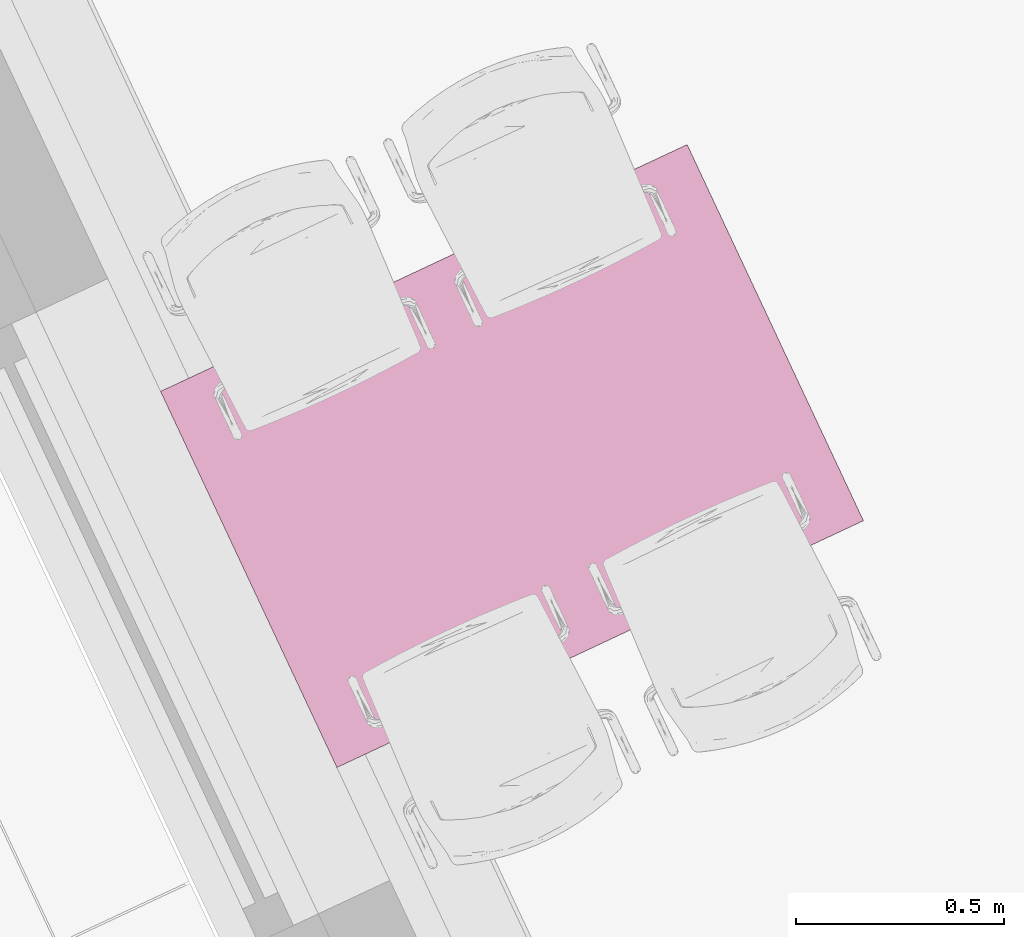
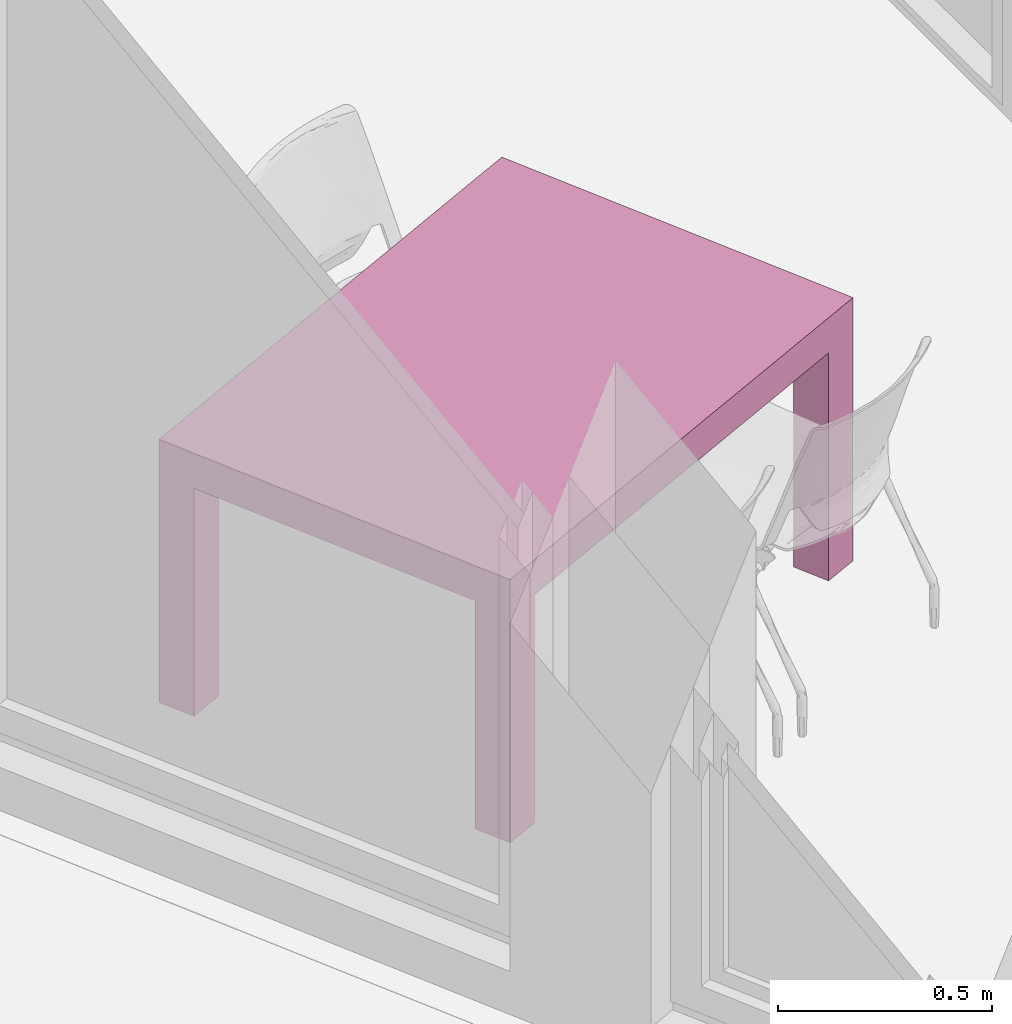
# One storey, part 63 of 125: 1 furnishing.
"""IFC2X3 building model written with IfcOpenShell, lengths in millimetres."""

import ifcopenshell
import ifcopenshell.guid

model = None  # the IFC model being written
_history = None  # IfcOwnerHistory: only IFC2X3 demands one
_inside = {}  # id of a spatial element -> (the spatial element, [elements in it])
_under = {}  # id of a project, library or spatial element -> (it, [spatial elements below it])
_declared = {}  # id of a project -> (the project, [libraries it declares])
_typed = {}  # id of a type object -> (the type object, [elements of that type])
_made_of = {}  # id of a material, layer set ... -> (it, [elements and type objects made of it])


def new_model(schema):
    """Start an empty IFC model of exactly this schema.

    Asked for "IFC4X3", IfcOpenShell would pick the latest addendum, in which some entities
    have other attributes; the version numbers below select the first issue.
    IFC2X3 requires an IfcOwnerHistory on every rooted entity: one is made here for all.
    """
    global model, _history
    if schema == "IFC4X3":
        model = ifcopenshell.file(schema_version=(4, 3, 0, 0))
    else:
        model = ifcopenshell.file(schema=schema)
    _inside.clear()
    _under.clear()
    _declared.clear()
    _typed.clear()
    _made_of.clear()
    _history = None
    if model.schema == "IFC2X3":
        org = make("IfcOrganization", Name="unknown")
        user = make(
            "IfcPersonAndOrganization",
            ThePerson=make("IfcPerson", FamilyName="unknown"),
            TheOrganization=org,
        )
        app = make(
            "IfcApplication",
            ApplicationDeveloper=org,
            Version="unknown",
            ApplicationFullName="unknown",
            ApplicationIdentifier="unknown",
        )
        _history = make(
            "IfcOwnerHistory",
            OwningUser=user,
            OwningApplication=app,
            ChangeAction="ADDED",
            CreationDate=0,
        )
    return model


def make(cls, **values):
    """One entity of the class cls with the attributes given. An attribute that is None is left unset."""
    return model.create_entity(
        cls, **{name: value for name, value in values.items() if value is not None}
    )


def entity(cls, *values):
    """Any entity or typed value of the class cls, its attributes in the order of the schema. None: left unset."""
    e = model.create_entity(cls)
    for i, value in enumerate(values):
        if value is not None:
            e[i] = value
    return e


def rooted(cls, **values):
    """An entity with a GlobalId (a new one), such as an element, a storey or a relation."""
    return make(cls, GlobalId=ifcopenshell.guid.new(), OwnerHistory=_history, **values)


def si_unit(unit_type, name, prefix=None):
    """IfcSIUnit, for example si_unit("LENGTHUNIT", "METRE", prefix="MILLI")."""
    return make("IfcSIUnit", UnitType=unit_type, Prefix=prefix, Name=name)


def converted_unit(unit_type, name, factor, base, dimensions=None, offset=None):
    """IfcConversionBasedUnit, such as the inch: factor (a typed value) times the base unit."""
    return make(
        "IfcConversionBasedUnit"
        if offset is None
        else "IfcConversionBasedUnitWithOffset",
        ConversionOffset=offset,
        Dimensions=None
        if dimensions is None
        else entity("IfcDimensionalExponents", *dimensions),
        UnitType=unit_type,
        Name=name,
        ConversionFactor=make(
            "IfcMeasureWithUnit", ValueComponent=factor, UnitComponent=base
        ),
    )


def assignment(units):
    """IfcUnitAssignment: the units of a project."""
    return None if units is None else make("IfcUnitAssignment", Units=units)


def point(xyz):
    """IfcCartesianPoint."""
    return None if xyz is None else make("IfcCartesianPoint", Coordinates=xyz)


def direction(xyz):
    """IfcDirection."""
    return None if xyz is None else make("IfcDirection", DirectionRatios=xyz)


def frame(location, z_axis=None, x_axis=None):
    """IfcAxis2Placement3D, a coordinate frame: its origin and axes. An axis left out is left unset."""
    return make(
        "IfcAxis2Placement3D",
        Location=point(location),
        Axis=direction(z_axis),
        RefDirection=direction(x_axis),
    )


def origin():
    """The frame at (0, 0, 0) with its axes left unset."""
    return frame((0.0, 0.0, 0.0))


def place(relative_to, where):
    """IfcLocalPlacement: puts the frame where relative to a parent placement (None: the world)."""
    return make(
        "IfcLocalPlacement", PlacementRelTo=relative_to, RelativePlacement=where
    )


def context(
    kind, dimensions, precision=None, world=None, true_north=None, identifier=None
):
    """IfcGeometricRepresentationContext, for example the 3D "Model" context."""
    return make(
        "IfcGeometricRepresentationContext",
        ContextIdentifier=identifier,
        ContextType=kind,
        CoordinateSpaceDimension=dimensions,
        Precision=precision,
        WorldCoordinateSystem=world,
        TrueNorth=true_north,
    )


def subcontext(parent, identifier, kind, view, scale=None):
    """IfcGeometricRepresentationSubContext, for example "Body" below "Model"."""
    return make(
        "IfcGeometricRepresentationSubContext",
        ContextIdentifier=identifier,
        ContextType=kind,
        ParentContext=parent,
        TargetScale=scale,
        TargetView=view,
    )


def project(units=None, contexts=None):
    """IfcProject with its units and contexts."""
    return rooted(
        "IfcProject",
        Name="project",
        RepresentationContexts=contexts,
        UnitsInContext=assignment(units),
    )


def spatial(cls, under=None, at=None, **own):
    """A site, building, storey or space (cls), placed at a placement, below another one or the project."""
    s = rooted(cls, ObjectPlacement=at, **own)
    if under is not None:
        _under.setdefault(under.id(), (under, []))[1].append(s)
    return s


def faces_of(points, faces, orient=None, outer=None):
    """IfcFace entities. A face is a list of loops; a loop is a list of indices into points, from 0.

    orient and outer hold one flag for each loop. By default every Orientation is true, the
    first loop of a face is its IfcFaceOuterBound and the others are IfcFaceBound.
    """
    made = []
    for i, loops in enumerate(faces):
        bounds = []
        for j, loop in enumerate(loops):
            is_outer = j == 0 if outer is None else outer[i][j]
            bounds.append(
                make(
                    "IfcFaceOuterBound" if is_outer else "IfcFaceBound",
                    Bound=make("IfcPolyLoop", Polygon=[points[k] for k in loop]),
                    Orientation=True if orient is None else orient[i][j],
                )
            )
        made.append(make("IfcFace", Bounds=bounds))
    return made


def faceted_brep(points, faces, orient=None, outer=None, voids=None):
    """IfcFacetedBrep: a solid bounded by flat faces; with voids (closed shells), ...WithVoids."""
    shared = [point(p) for p in points]
    hull = make("IfcClosedShell", CfsFaces=faces_of(shared, faces, orient, outer))
    if voids is None:
        return make("IfcFacetedBrep", Outer=hull)
    return make(
        "IfcFacetedBrepWithVoids",
        Outer=hull,
        Voids=[
            make(cls, CfsFaces=faces_of(shared, fs, o, b)) for cls, fs, o, b in voids
        ],
    )


def shape(context_of_items, identifier, shape_type, items):
    """IfcShapeRepresentation: the items that make up one representation, for example the "Body"."""
    return make(
        "IfcShapeRepresentation",
        ContextOfItems=context_of_items,
        RepresentationIdentifier=identifier,
        RepresentationType=shape_type,
        Items=items,
    )


def source(mapping_origin, context_of_items, identifier, shape_type, items):
    """IfcRepresentationMap: a shape defined once, which mapped items show again and again."""
    return make(
        "IfcRepresentationMap",
        MappingOrigin=mapping_origin,
        MappedRepresentation=shape(context_of_items, identifier, shape_type, items),
    )


def transform(
    local_origin,
    x_axis=None,
    y_axis=None,
    z_axis=None,
    scale=None,
    scale2=None,
    scale3=None,
    uniform=True,
):
    """IfcCartesianTransformationOperator3D, or its non-uniform kind. x_axis, y_axis, z_axis: its Axis1, 2, 3."""
    if uniform:
        return make(
            "IfcCartesianTransformationOperator3D",
            Axis1=direction(x_axis),
            Axis2=direction(y_axis),
            LocalOrigin=point(local_origin),
            Scale=scale,
            Axis3=direction(z_axis),
        )
    return make(
        "IfcCartesianTransformationOperator3DnonUniform",
        Axis1=direction(x_axis),
        Axis2=direction(y_axis),
        LocalOrigin=point(local_origin),
        Scale=scale,
        Axis3=direction(z_axis),
        Scale2=scale2,
        Scale3=scale3,
    )


def mapped(mapping_source, mapping_target):
    """IfcMappedItem: shows the shape of a source again, moved by a transform."""
    return make(
        "IfcMappedItem", MappingSource=mapping_source, MappingTarget=mapping_target
    )


def material(Name=None, Category=None):
    """IfcMaterial."""
    return make("IfcMaterial", Name=Name, Category=Category)


def made_of(thing, what):
    """Note that an element or type object is made of a material, layer set ...; save() writes the relation."""
    if what is not None:
        _made_of.setdefault(what.id(), (what, []))[1].append(thing)
    return thing


def type_object(cls, material=None, **own):
    """A type object (cls), such as IfcWallType, which elements share."""
    return made_of(rooted(cls, **own), material)


def type_shapes(of_type, sources):
    """Give a type object the sources (RepresentationMaps) that its elements show as mapped items."""
    of_type.RepresentationMaps = sources


def element(
    cls,
    number,
    at=None,
    inside=None,
    cuts=None,
    type_object=None,
    material=None,
    context=None,
    identifier="Body",
    shape_type=None,
    held_by="IfcProductDefinitionShape",
    body=None,
    shapes=None,
    **own,
):
    """One element of the class cls, such as IfcWall. Its Tag is "e" and its number.

    at: its placement. inside: the storey or other place that contains it. cuts: it is an
    opening in that element (IfcRelVoidsElement). A single representation is given by context,
    identifier, shape_type and body (its items); several are given by shapes. held_by: the class
    of the entity that holds the representations. save() writes the other relations.
    """
    e = rooted(cls, Tag="e%d" % number, ObjectPlacement=at, **own)
    if body is not None:
        shapes = [shape(context, identifier, shape_type, body)]
    if shapes is not None:
        e.Representation = make(held_by, Representations=shapes)
    if inside is not None:
        _inside.setdefault(inside.id(), (inside, []))[1].append(e)
    if cuts is not None:
        rooted(
            "IfcRelVoidsElement", RelatingBuildingElement=cuts, RelatedOpeningElement=e
        )
    if type_object is not None:
        _typed.setdefault(type_object.id(), (type_object, []))[1].append(e)
    return made_of(e, material)


def aggregate(whole, parts):
    """IfcRelAggregates: a whole, such as a stair, and the parts it consists of."""
    return rooted("IfcRelAggregates", RelatingObject=whole, RelatedObjects=parts)


def save(model, path):
    """Write the relations noted so far, then the file.

    IfcRelAggregates (storeys below a building ...), IfcRelContainedInSpatialStructure (elements
    in a storey), IfcRelDefinesByType, IfcRelAssociatesMaterial and IfcRelDeclares: one each for
    every whole, place, type object, material and project.
    """
    for whole, parts in _under.values():
        aggregate(whole, parts)
    for where, things in _inside.values():
        rooted(
            "IfcRelContainedInSpatialStructure",
            RelatedElements=things,
            RelatingStructure=where,
        )
    for kind, things in _typed.values():
        rooted("IfcRelDefinesByType", RelatedObjects=things, RelatingType=kind)
    for what, things in _made_of.values():
        rooted("IfcRelAssociatesMaterial", RelatedObjects=things, RelatingMaterial=what)
    for by, libraries in _declared.values():
        rooted("IfcRelDeclares", RelatingContext=by, RelatedDefinitions=libraries)
    model.write(path)


model = new_model("IFC2X3")

# Units and contexts
model_context = context("Model", 3, precision=0.01, world=origin(), true_north=direction((6.123233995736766e-17, 1.0)))
plan_context = context("Plan", 3, precision=0.01, world=origin(), true_north=direction((6.123233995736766e-17, 1.0)))
body_context = subcontext(model_context, "Body", "Model", "MODEL_VIEW")
ifc_project = project(units=[si_unit("LENGTHUNIT", "METRE", prefix="MILLI"), converted_unit("PLANEANGLEUNIT", "DEGREE", entity("IfcPlaneAngleMeasure", 0.017453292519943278), si_unit("PLANEANGLEUNIT", "RADIAN"), dimensions=[0, 0, 0, 0, 0, 0, 0]), si_unit("AREAUNIT", "SQUARE_METRE")], contexts=[model_context, plan_context])

# Site, building, storey, space
site_placement = place(None, origin())
site = spatial("IfcSite", under=ifc_project, at=site_placement, Name="Default", CompositionType="ELEMENT")
building_placement = place(site_placement, origin())
building = spatial("IfcBuilding", under=site, at=building_placement, CompositionType="ELEMENT")
storey_placement = place(building_placement, frame((0.0, 0.0, 3125.0)))
storey = spatial("IfcBuildingStorey", under=building, at=storey_placement, Name="2K", CompositionType="ELEMENT", Elevation=3125.0)
space_placement = place(storey_placement, origin())
space = spatial("IfcSpace", under=storey, at=space_placement, Name="2-1.2", CompositionType="ELEMENT", InteriorOrExteriorSpace="INTERNAL")

# Furnishing
ifc_material = material(Name="<Unnamed>")
furniture_type = type_object("IfcFurnitureType", Name="HR_Furniture_Table_Generic_v2016-02-11:1600x1000", AssemblyPlace="NOTDEFINED", material=ifc_material)
shared_shape = source(origin(), body_context, "Body", "Brep", [
    faceted_brep([(-500.0, -600.0, 0.0), (-400.0, -600.0, 0.0), (-400.0, -700.0, 0.0), (-500.0, -700.0, 0.0), (-400.0, 700.0, 0.0), (-500.0, 700.0, 0.0), (-500.0, 700.0, 750.0), (500.0, 700.0, 750.0), (500.0, 700.0, 0.0), (400.0, 700.0, 0.0), (400.0, 700.0, 650.0), (-400.0, 700.0, 650.0), (-500.0, 600.0, 0.0), (-500.0, 600.0, 650.0), (-500.0, -600.0, 650.0), (-500.0, -700.0, 750.0), (-400.0, 600.0, 0.0), (-400.0, 600.0, 650.0), (400.0, 600.0, 0.0), (400.0, 600.0, 650.0), (500.0, 600.0, 0.0), (500.0, 600.0, 650.0), (500.0, -700.0, 750.0), (500.0, -700.0, 0.0), (500.0, -600.0, 0.0), (500.0, -600.0, 650.0), (400.0, -600.0, 0.0), (400.0, -600.0, 650.0), (400.0, -700.0, 0.0), (400.0, -700.0, 650.0), (-400.0, -700.0, 650.0), (-400.0, -600.0, 650.0)], [[[0, 1, 2, 3]], [[4, 5, 6, 7, 8, 9, 10, 11]], [[6, 5, 12, 13, 14, 0, 3, 15]], [[12, 16, 17, 13]], [[16, 4, 11, 17]], [[9, 18, 19, 10]], [[18, 20, 21, 19]], [[20, 8, 7, 22, 23, 24, 25, 21]], [[24, 26, 27, 25]], [[26, 28, 29, 27]], [[28, 23, 22, 15, 3, 2, 30, 29]], [[2, 1, 31, 30]], [[1, 0, 14, 31]], [[7, 6, 15, 22]], [[11, 10, 19, 21, 25, 27, 29, 30, 31, 14, 13, 17]], [[4, 16, 12, 5]], [[8, 20, 18, 9]], [[24, 23, 28, 26]]]),
])
type_shapes(furniture_type, [shared_shape])
furnishing_placement = place(space_placement, frame((-2262.102581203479, 10905.325238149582, 0.0), z_axis=(0.0, 0.0, 1.0), x_axis=(0.4244338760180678, -0.905458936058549, 0.0)))
element("IfcFurnishingElement", 1, at=furnishing_placement, inside=space, type_object=furniture_type, material=ifc_material, Name="HR_Furniture_Table_Generic_v2016-02-11:1600x1000", ObjectType="HR_Furniture_Table_Generic_v2016-02-11:1600x1000", context=body_context, shape_type="MappedRepresentation", body=[
    mapped(shared_shape, transform((0.0, 0.0, 0.0), scale=1.0)),
])

save(model, "model.ifc")
